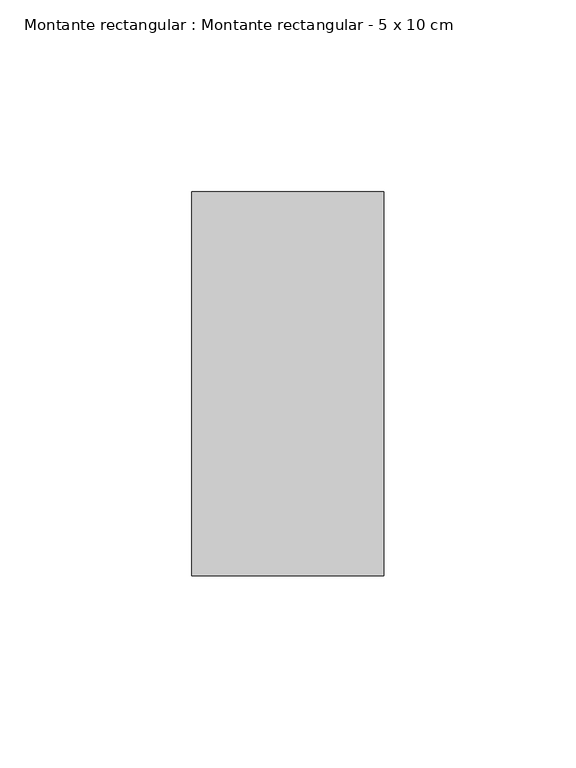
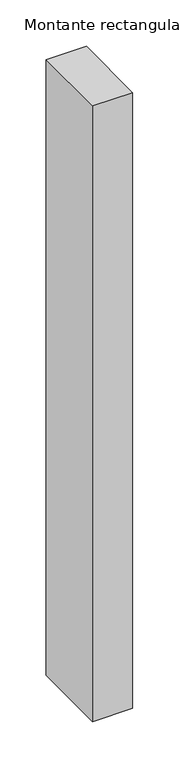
"""IFC4 building model written with IfcOpenShell, lengths in millimetres: member geometry, Montante rectangular : Montante rectangular - 5 x 10 cm."""

from ifc_helpers import new_model, si_unit, frame, origin, place, context, project, spatial, polyline, outline, extrude, source, transform, mapped, element, save


def montante_rectangular_montante_rectangular_5_x_10_cm_d62d83e6(model_context):
    return source(origin(), model_context, "Body", "SweptSolid", [
        extrude(outline(polyline([(-50.0, 50.0), (0.0, 50.0), (0.0, -50.0), (-50.0, -50.0), (-50.0, 50.0)])), frame((0.0, 0.0, -810.0), z_axis=(0.0, 0.0, 1.0), x_axis=(1.0, 0.0, 0.0)), (0.0, 0.0, 1.0), 810.0),
    ])


if __name__ == "__main__":
    model = new_model("IFC4")
    model_context = context("Model", 3, world=origin())
    ifc_project = project(units=[si_unit("LENGTHUNIT", "METRE", prefix="MILLI")], contexts=[model_context])
    site = spatial("IfcSite", under=ifc_project)
    building = spatial("IfcBuilding", under=site)
    placement = place(None, origin())
    montante_rectangular_montante_rectangular_5_x_10_cm_shape = montante_rectangular_montante_rectangular_5_x_10_cm_d62d83e6(model_context)
    element("IfcMember", 1, ObjectType="Montante rectangular : Montante rectangular - 5 x 10 cm", at=placement, inside=building, context=model_context, shape_type="MappedRepresentation", body=[
        mapped(montante_rectangular_montante_rectangular_5_x_10_cm_shape, transform((0.0, 0.0, 0.0), x_axis=(1.0, 0.0, 0.0), y_axis=(0.0, 1.0, 0.0), z_axis=(0.0, 0.0, 1.0))),
    ])
    save(model, "model.ifc")
